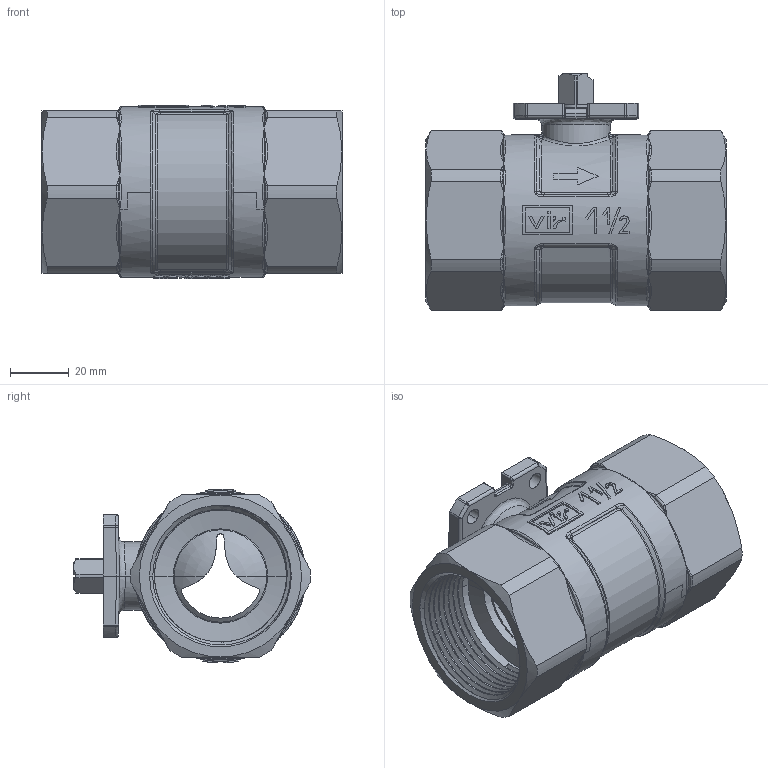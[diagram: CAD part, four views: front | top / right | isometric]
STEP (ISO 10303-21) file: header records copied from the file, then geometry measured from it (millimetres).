
FILE_DESCRIPTION((''),'2;1');
FILE_NAME('H980SX040_1527_SW0001','2015-05-20T',('64ciro'),('Vir spa'),'PRO/ENGINEER BY PARAMETRIC TECHNOLOGY CORPORATION, 2010280','PRO/ENGINEER BY PARAMETRIC TECHNOLOGY CORPORATION, 2010280','');
FILE_SCHEMA(('CONFIG_CONTROL_DESIGN'));
Length unit declared in the file: millimetre
Products named in the file (1): H980SX040_1527_SW0001
Bounding box: 101.8 x 80.29 x 58.98 mm (x, y, z)
Volume: 142239.6 mm3; surface area: 63565.7 mm2
Topology: 1 solids, 1 shells, 1069 faces, 2800 edges, 1690 vertices
Faces by surface type: plane 541, cylinder 216, bspline 150, cone 80, torus 62, sphere 18, extrusion 2
Entity records: 47768 total; most frequent: CARTESIAN_POINT 24462, ORIENTED_EDGE 5408, DIRECTION 4001, EDGE_CURVE 2704, VERTEX_POINT 1690, AXIS2_PLACEMENT_3D 1528, B_SPLINE_CURVE_WITH_KNOTS 1152, EDGE_LOOP 1136
